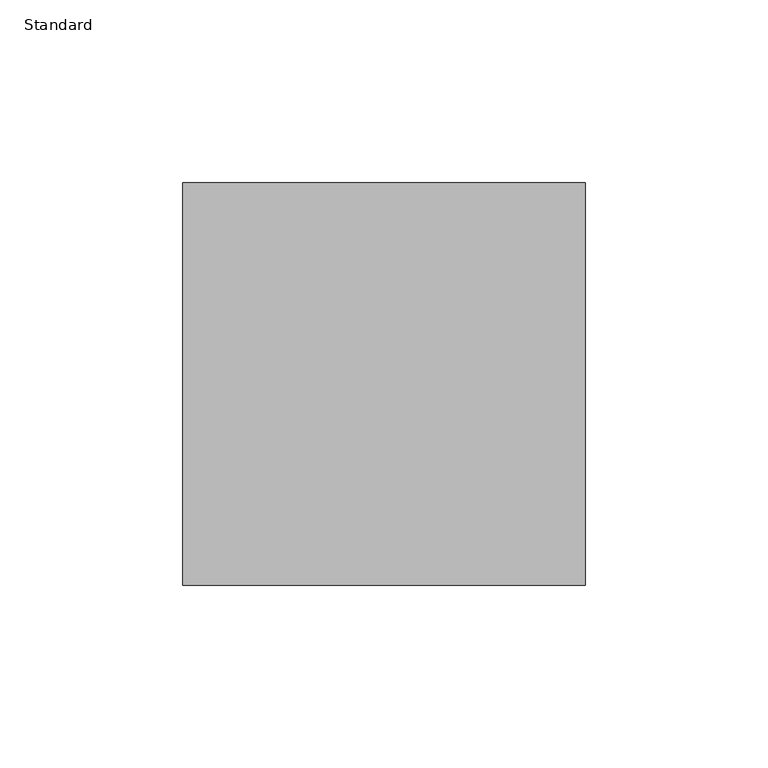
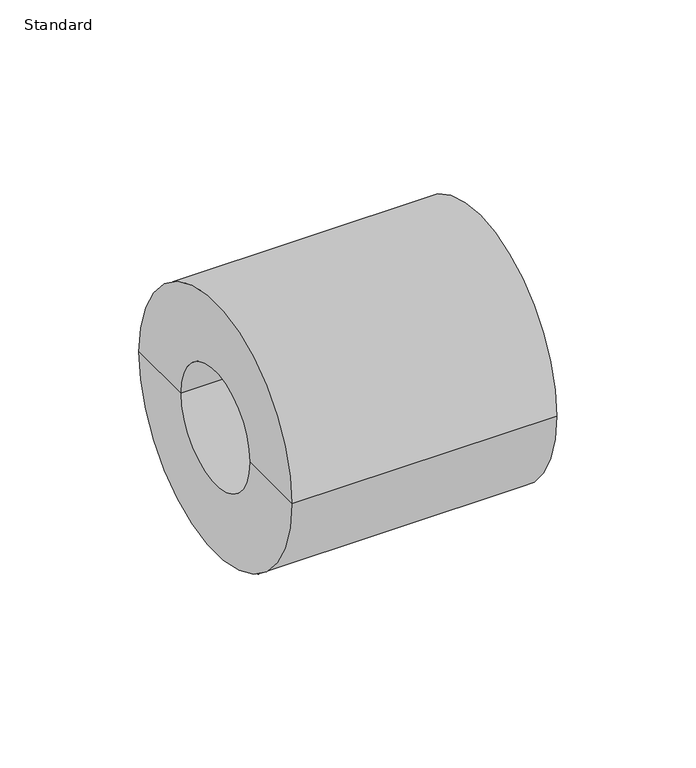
"""IFC4 building model written with IfcOpenShell, lengths in millimetres: pipe fitting geometry, Durapipe_PipeFitting_PVC_ReducingBush : Standard."""

from ifc_helpers import new_model, si_unit, frame, origin, place, context, project, spatial, polyline, circle_curve, source, transform, mapped, element, save
from ifc_brep_helpers import plane_surface, cylinder_surface, revolved_surface, advanced_brep


def standard_5060dffe(model_context):
    return source(origin(), model_context, "Body", "AdvancedBrep", [
        advanced_brep(
        [(-23.0, -25.0, 0.0), (-23.0, 25.0, 0.0), (-23.0, 55.0, 0.0), (-23.0, -55.0, 0.0), (0.0, -25.0, 0.0), (0.0, 25.0, 0.0), (0.0, -31.5, 0.0), (0.0, 31.5, 0.0), (87.0, -31.5, 0.0), (87.0, 31.5, 0.0), (87.0, -55.0, 0.0), (87.0, 55.0, 0.0)],
        [
            (0, 1, circle_curve(frame((-23.0, 0.0, 0.0), z_axis=(1.0, 0.0, 0.0), x_axis=(0.0, 1.0, 0.0)), 25.0)),
            (1, 2),
            (2, 3, circle_curve(frame((-23.0, 0.0, 0.0), z_axis=(-1.0, 0.0, 0.0), x_axis=(0.0, 1.0, 0.0)), 55.0)),
            (3, 0),
            (1, 0, circle_curve(frame((-23.0, 0.0, 0.0), z_axis=(1.0, 0.0, 0.0), x_axis=(0.0, 1.0, 0.0)), 25.0)),
            (3, 2, circle_curve(frame((-23.0, 0.0, 0.0), z_axis=(-1.0, 0.0, 0.0), x_axis=(0.0, 1.0, 0.0)), 55.0)),
            (4, 5, circle_curve(frame((0.0, 0.0, 0.0), z_axis=(1.0, 0.0, 0.0), x_axis=(0.0, 1.0, 0.0)), 25.0)),
            (5, 1),
            (0, 4),
            (5, 4, circle_curve(frame((0.0, 0.0, 0.0), z_axis=(1.0, 0.0, 0.0), x_axis=(0.0, 1.0, 0.0)), 25.0)),
            (6, 7, circle_curve(frame((0.0, 0.0, 0.0), z_axis=(1.0, 0.0, 0.0), x_axis=(0.0, 1.0, 0.0)), 31.5)),
            (7, 5),
            (4, 6),
            (7, 6, circle_curve(frame((0.0, 0.0, 0.0), z_axis=(1.0, 0.0, 0.0), x_axis=(0.0, 1.0, 0.0)), 31.5)),
            (8, 9, circle_curve(frame((87.0, 0.0, 0.0), z_axis=(1.0, 0.0, 0.0), x_axis=(0.0, 1.0, 0.0)), 31.5)),
            (9, 7),
            (6, 8),
            (9, 8, circle_curve(frame((87.0, 0.0, 0.0), z_axis=(1.0, 0.0, 0.0), x_axis=(0.0, 1.0, 0.0)), 31.5)),
            (10, 11, circle_curve(frame((87.0, 0.0, 0.0), z_axis=(1.0, 0.0, 0.0), x_axis=(0.0, 1.0, 0.0)), 55.0)),
            (11, 9),
            (8, 10),
            (11, 10, circle_curve(frame((87.0, 0.0, 0.0), z_axis=(1.0, 0.0, 0.0), x_axis=(0.0, 1.0, 0.0)), 55.0)),
            (2, 11),
            (10, 3),
        ],
        [
            plane_surface(frame((-23.0, 0.0, 0.0), z_axis=(-1.0, 0.0, 0.0), x_axis=(0.0, 1.0, 0.0))),
            revolved_surface(polyline([(-23.0, 25.0, 0.0), (0.0, 25.0, 0.0)]), (2073.0, 0.0, 0.0), (-1.0, 0.0, 0.0)),
            plane_surface(frame((0.0, 0.0, 0.0), z_axis=(1.0, 0.0, 0.0), x_axis=(0.0, 1.0, 0.0))),
            revolved_surface(polyline([(0.0, 31.5, 0.0), (87.0, 31.5, 0.0)]), (2073.0, 0.0, 0.0), (-1.0, 0.0, 0.0)),
            plane_surface(frame((87.0, 0.0, 0.0), z_axis=(1.0, 0.0, 0.0), x_axis=(0.0, 1.0, 0.0))),
            cylinder_surface(frame((2073.0, 0.0, 0.0), z_axis=(-1.0, 0.0, 0.0), x_axis=(0.0, 1.0, 0.0)), 55.0),
        ],
        [
            (0, [[1, 2, 3, 4]]),
            (0, [[5, -4, 6, -2]]),
            (1, [[7, 8, -1, 9]]),
            (1, [[10, -9, -5, -8]]),
            (2, [[11, 12, -7, 13]]),
            (2, [[14, -13, -10, -12]]),
            (3, [[15, 16, -11, 17]]),
            (3, [[18, -17, -14, -16]]),
            (4, [[19, 20, -15, 21]]),
            (4, [[22, -21, -18, -20]]),
            (5, [[-3, 23, -19, 24]]),
            (5, [[-6, -24, -22, -23]]),
        ],
    ),
    ])


if __name__ == "__main__":
    model = new_model("IFC4")
    model_context = context("Model", 3, world=origin())
    ifc_project = project(units=[si_unit("LENGTHUNIT", "METRE", prefix="MILLI")], contexts=[model_context])
    site = spatial("IfcSite", under=ifc_project)
    building = spatial("IfcBuilding", under=site)
    placement = place(None, origin())
    standard_shape = standard_5060dffe(model_context)
    element("IfcPipeFitting", 1, ObjectType="Durapipe_PipeFitting_PVC_ReducingBush : Standard", at=placement, inside=building, context=model_context, shape_type="MappedRepresentation", body=[
        mapped(standard_shape, transform((0.0, 0.0, 0.0), x_axis=(1.0, 0.0, 0.0), y_axis=(0.0, 1.0, 0.0), z_axis=(0.0, 0.0, 1.0))),
    ])
    save(model, "model.ifc")
